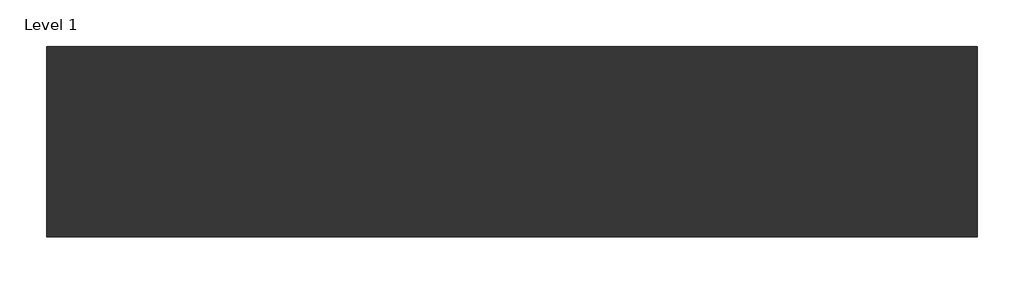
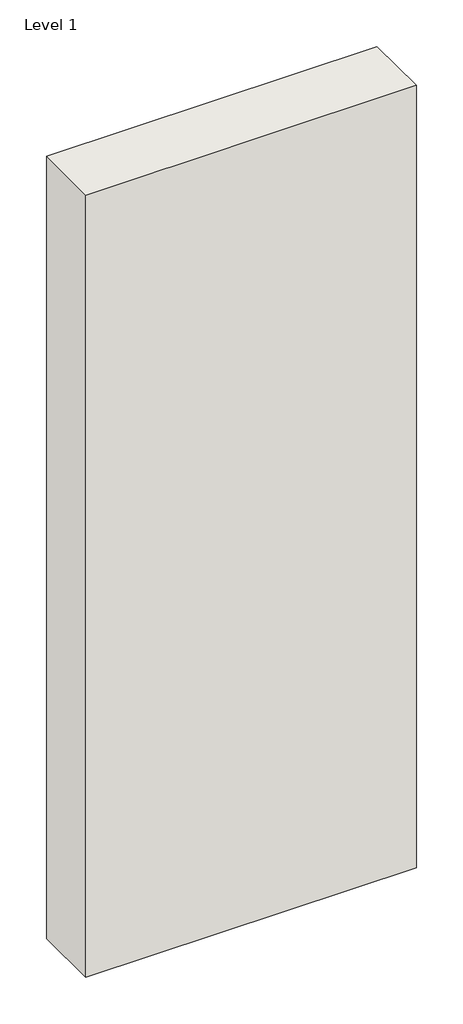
# One storey: 1 wall.
"""IFC4 building model written with IfcOpenShell, lengths in millimetres."""

import ifcopenshell
import ifcopenshell.guid

model = None  # the IFC model being written
_history = None  # IfcOwnerHistory: only IFC2X3 demands one
_inside = {}  # id of a spatial element -> (the spatial element, [elements in it])
_under = {}  # id of a project, library or spatial element -> (it, [spatial elements below it])
_declared = {}  # id of a project -> (the project, [libraries it declares])
_typed = {}  # id of a type object -> (the type object, [elements of that type])
_made_of = {}  # id of a material, layer set ... -> (it, [elements and type objects made of it])


def new_model(schema):
    """Start an empty IFC model of exactly this schema.

    Asked for "IFC4X3", IfcOpenShell would pick the latest addendum, in which some entities
    have other attributes; the version numbers below select the first issue.
    IFC2X3 requires an IfcOwnerHistory on every rooted entity: one is made here for all.
    """
    global model, _history
    if schema == "IFC4X3":
        model = ifcopenshell.file(schema_version=(4, 3, 0, 0))
    else:
        model = ifcopenshell.file(schema=schema)
    _inside.clear()
    _under.clear()
    _declared.clear()
    _typed.clear()
    _made_of.clear()
    _history = None
    if model.schema == "IFC2X3":
        org = make("IfcOrganization", Name="unknown")
        user = make(
            "IfcPersonAndOrganization",
            ThePerson=make("IfcPerson", FamilyName="unknown"),
            TheOrganization=org,
        )
        app = make(
            "IfcApplication",
            ApplicationDeveloper=org,
            Version="unknown",
            ApplicationFullName="unknown",
            ApplicationIdentifier="unknown",
        )
        _history = make(
            "IfcOwnerHistory",
            OwningUser=user,
            OwningApplication=app,
            ChangeAction="ADDED",
            CreationDate=0,
        )
    return model


def make(cls, **values):
    """One entity of the class cls with the attributes given. An attribute that is None is left unset."""
    return model.create_entity(
        cls, **{name: value for name, value in values.items() if value is not None}
    )


def rooted(cls, **values):
    """An entity with a GlobalId (a new one), such as an element, a storey or a relation."""
    return make(cls, GlobalId=ifcopenshell.guid.new(), OwnerHistory=_history, **values)


def si_unit(unit_type, name, prefix=None):
    """IfcSIUnit, for example si_unit("LENGTHUNIT", "METRE", prefix="MILLI")."""
    return make("IfcSIUnit", UnitType=unit_type, Prefix=prefix, Name=name)


def assignment(units):
    """IfcUnitAssignment: the units of a project."""
    return None if units is None else make("IfcUnitAssignment", Units=units)


def point(xyz):
    """IfcCartesianPoint."""
    return None if xyz is None else make("IfcCartesianPoint", Coordinates=xyz)


def direction(xyz):
    """IfcDirection."""
    return None if xyz is None else make("IfcDirection", DirectionRatios=xyz)


def frame(location, z_axis=None, x_axis=None):
    """IfcAxis2Placement3D, a coordinate frame: its origin and axes. An axis left out is left unset."""
    return make(
        "IfcAxis2Placement3D",
        Location=point(location),
        Axis=direction(z_axis),
        RefDirection=direction(x_axis),
    )


def origin():
    """The frame at (0, 0, 0) with its axes left unset."""
    return frame((0.0, 0.0, 0.0))


def origin_with_axes():
    """The frame at (0, 0, 0) with the z axis (0, 0, 1) and the x axis (1, 0, 0) written out."""
    return frame((0.0, 0.0, 0.0), z_axis=(0.0, 0.0, 1.0), x_axis=(1.0, 0.0, 0.0))


def place(relative_to, where):
    """IfcLocalPlacement: puts the frame where relative to a parent placement (None: the world)."""
    return make(
        "IfcLocalPlacement", PlacementRelTo=relative_to, RelativePlacement=where
    )


def context(
    kind, dimensions, precision=None, world=None, true_north=None, identifier=None
):
    """IfcGeometricRepresentationContext, for example the 3D "Model" context."""
    return make(
        "IfcGeometricRepresentationContext",
        ContextIdentifier=identifier,
        ContextType=kind,
        CoordinateSpaceDimension=dimensions,
        Precision=precision,
        WorldCoordinateSystem=world,
        TrueNorth=true_north,
    )


def project(units=None, contexts=None):
    """IfcProject with its units and contexts."""
    return rooted(
        "IfcProject",
        Name="project",
        RepresentationContexts=contexts,
        UnitsInContext=assignment(units),
    )


def spatial(cls, under=None, at=None, **own):
    """A site, building, storey or space (cls), placed at a placement, below another one or the project."""
    s = rooted(cls, ObjectPlacement=at, **own)
    if under is not None:
        _under.setdefault(under.id(), (under, []))[1].append(s)
    return s


def polyline(points):
    """IfcPolyline through the points."""
    return make("IfcPolyline", Points=[point(p) for p in points])


def outline(outer, holes=None, kind="AREA"):
    """IfcArbitraryClosedProfileDef: a profile drawn as a closed curve; with holes, ...WithVoids."""
    if holes is None:
        return make("IfcArbitraryClosedProfileDef", ProfileType=kind, OuterCurve=outer)
    return make(
        "IfcArbitraryProfileDefWithVoids",
        ProfileType=kind,
        OuterCurve=outer,
        InnerCurves=holes,
    )


def extrude(swept, where, along, depth):
    """IfcExtrudedAreaSolid: the profile swept, set in the frame where, extruded along a direction by depth."""
    return make(
        "IfcExtrudedAreaSolid",
        SweptArea=swept,
        Position=where,
        ExtrudedDirection=direction(along),
        Depth=depth,
    )


def shape(context_of_items, identifier, shape_type, items):
    """IfcShapeRepresentation: the items that make up one representation, for example the "Body"."""
    return make(
        "IfcShapeRepresentation",
        ContextOfItems=context_of_items,
        RepresentationIdentifier=identifier,
        RepresentationType=shape_type,
        Items=items,
    )


def made_of(thing, what):
    """Note that an element or type object is made of a material, layer set ...; save() writes the relation."""
    if what is not None:
        _made_of.setdefault(what.id(), (what, []))[1].append(thing)
    return thing


def element(
    cls,
    number,
    at=None,
    inside=None,
    cuts=None,
    type_object=None,
    material=None,
    context=None,
    identifier="Body",
    shape_type=None,
    held_by="IfcProductDefinitionShape",
    body=None,
    shapes=None,
    **own,
):
    """One element of the class cls, such as IfcWall. Its Tag is "e" and its number.

    at: its placement. inside: the storey or other place that contains it. cuts: it is an
    opening in that element (IfcRelVoidsElement). A single representation is given by context,
    identifier, shape_type and body (its items); several are given by shapes. held_by: the class
    of the entity that holds the representations. save() writes the other relations.
    """
    e = rooted(cls, Tag="e%d" % number, ObjectPlacement=at, **own)
    if body is not None:
        shapes = [shape(context, identifier, shape_type, body)]
    if shapes is not None:
        e.Representation = make(held_by, Representations=shapes)
    if inside is not None:
        _inside.setdefault(inside.id(), (inside, []))[1].append(e)
    if cuts is not None:
        rooted(
            "IfcRelVoidsElement", RelatingBuildingElement=cuts, RelatedOpeningElement=e
        )
    if type_object is not None:
        _typed.setdefault(type_object.id(), (type_object, []))[1].append(e)
    return made_of(e, material)


def aggregate(whole, parts):
    """IfcRelAggregates: a whole, such as a stair, and the parts it consists of."""
    return rooted("IfcRelAggregates", RelatingObject=whole, RelatedObjects=parts)


def save(model, path):
    """Write the relations noted so far, then the file.

    IfcRelAggregates (storeys below a building ...), IfcRelContainedInSpatialStructure (elements
    in a storey), IfcRelDefinesByType, IfcRelAssociatesMaterial and IfcRelDeclares: one each for
    every whole, place, type object, material and project.
    """
    for whole, parts in _under.values():
        aggregate(whole, parts)
    for where, things in _inside.values():
        rooted(
            "IfcRelContainedInSpatialStructure",
            RelatedElements=things,
            RelatingStructure=where,
        )
    for kind, things in _typed.values():
        rooted("IfcRelDefinesByType", RelatedObjects=things, RelatingType=kind)
    for what, things in _made_of.values():
        rooted("IfcRelAssociatesMaterial", RelatedObjects=things, RelatingMaterial=what)
    for by, libraries in _declared.values():
        rooted("IfcRelDeclares", RelatingContext=by, RelatedDefinitions=libraries)
    model.write(path)


model = new_model("IFC4")

# Units and contexts
model_context = context("Model", 3, world=origin())
ifc_project = project(units=[si_unit("LENGTHUNIT", "METRE", prefix="MILLI")], contexts=[model_context])

# Site, building, storey
site = spatial("IfcSite", under=ifc_project)
building = spatial("IfcBuilding", under=site)
storey = spatial("IfcBuildingStorey", under=building, Name="Level 1", Elevation=0.0)

# Wall
placement = place(None, origin())
element("IfcWall", 1, ObjectType="RIGIPS - 3.41.02 - EI 90, REI 90 - 6000 - 63dB", at=placement, inside=storey, context=model_context, shape_type="SweptSolid", body=[
    extrude(outline(polyline([(1000.0, -102.5), (0.0, -102.5), (0.0, 102.5), (1000.0, 102.5), (1000.0, -102.5)])), origin_with_axes(), (0.0, 0.0, 1.0), 2500.0),
])

save(model, "model.ifc")
